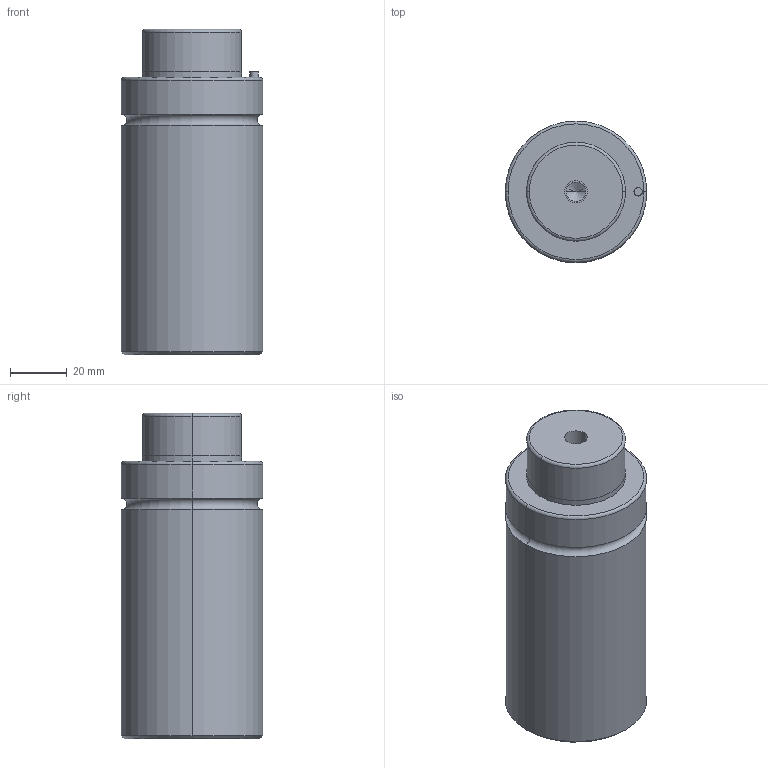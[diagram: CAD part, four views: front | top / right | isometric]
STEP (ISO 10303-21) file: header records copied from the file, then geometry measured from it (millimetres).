
FILE_DESCRIPTION(/* description */ (''),/* implementation_level */ '2;1');
FILE_NAME(/* name */ '3d_gsm50-15_03946_r00.stp',/* time_stamp */ '2011-01-10T14:15:15+09:00',/* author */ ('MISUMI'),/* organization */ (''),/* preprocessor_version */ 'ST-DEVELOPER v11',/* originating_system */ 'UGS - NX 5.0',/* authorisation */ '');
FILE_SCHEMA (('CONFIG_CONTROL_DESIGN'));
Length unit declared in the file: millimetre
Products named in the file (1): 3d_gsm50-15_03946_r00
Bounding box: 50 x 50 x 115 mm (x, y, z)
Volume: 204832.7 mm3; surface area: 22751.5 mm2
Topology: 1 solids, 1 shells, 50 faces, 106 edges, 60 vertices
Faces by surface type: cylinder 26, cone 10, plane 8, torus 6
Entity records: 1382 total; most frequent: DIRECTION 262, CARTESIAN_POINT 209, ORIENTED_EDGE 196, AXIS2_PLACEMENT_3D 113, EDGE_CURVE 98, CIRCLE 62, EDGE_LOOP 60, VERTEX_POINT 60
